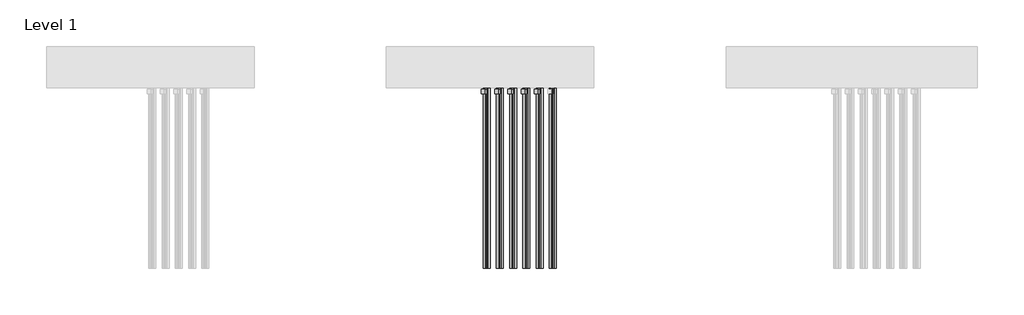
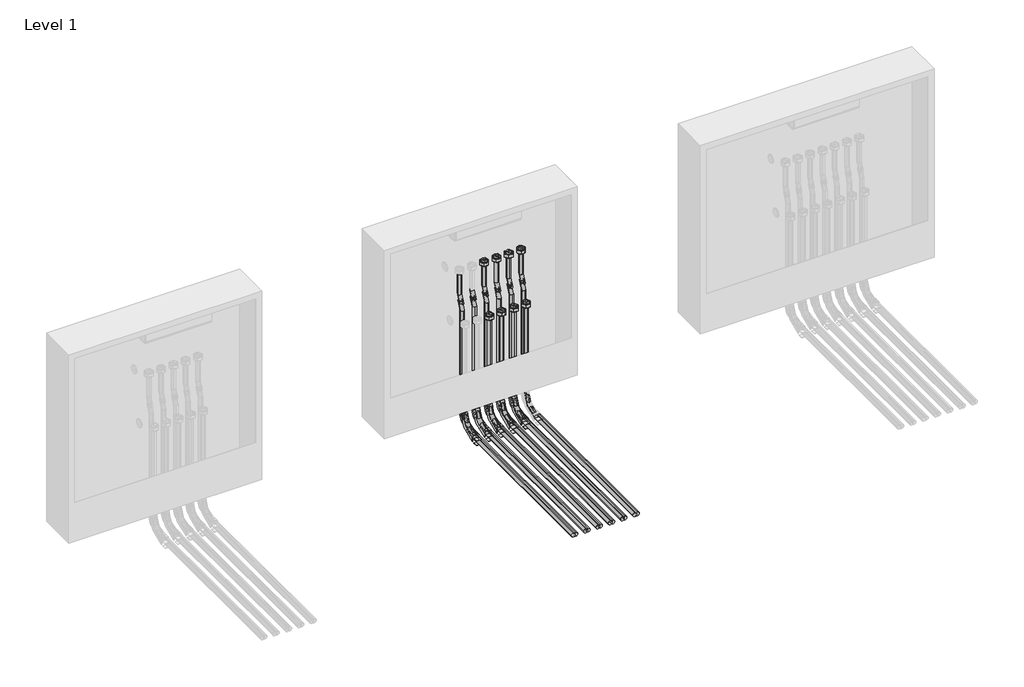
# One storey, part 4 of 15: 41 pipe fittings, 33 pipe segments.
"""IFC4 building model written with IfcOpenShell, lengths in millimetres."""

from ifc_helpers import new_model, si_unit, point, frame, frame_2d, origin, place, context, project, spatial, circle_curve, trimmed, segment, composite_curve, outline, extrude, transform, mapped, element, save
from components import pipe_fitting_b05a7e06, pipe_fitting_27357a6d, pipe_fitting_daada113, pipe_fitting_3e503640

model = new_model("IFC4")

# Units and contexts
model_context = context("Model", 3, world=origin())
ifc_project = project(units=[si_unit("LENGTHUNIT", "METRE", prefix="MILLI")], contexts=[model_context])

# Site, building, storey
site = spatial("IfcSite", under=ifc_project)
building = spatial("IfcBuilding", under=site)
storey = spatial("IfcBuildingStorey", under=building, Name="Level 1", Elevation=0.0)

# Pipe fittings
placement = place(None, origin())
pipe_fitting_shape = pipe_fitting_b05a7e06(model_context)
element("IfcPipeFitting", 1, ObjectType="USYSTEMS_УгловойФиксатор_Multi : Угловой фиксатор", at=placement, inside=storey, context=model_context, shape_type="MappedRepresentation", body=[
    mapped(pipe_fitting_shape, transform((7342.2335352, 3819.7722258, -114.3211479), x_axis=(0.0, 0.0, -1.0), y_axis=(0.0, -1.0, 0.0), z_axis=(-1.0, 0.0, 0.0))),
])
element("IfcPipeFitting", 2, ObjectType="USYSTEMS_УгловойФиксатор_Multi : Угловой фиксатор", at=placement, inside=storey, context=model_context, shape_type="MappedRepresentation", body=[
    mapped(pipe_fitting_shape, transform((7392.2335352, 3819.7722258, -114.3211479), x_axis=(0.0, 0.0, -1.0), y_axis=(0.0, -1.0, 0.0), z_axis=(-1.0, 0.0, 0.0))),
])
element("IfcPipeFitting", 3, ObjectType="USYSTEMS_УгловойФиксатор_Multi : Угловой фиксатор", at=placement, inside=storey, context=model_context, shape_type="MappedRepresentation", body=[
    mapped(pipe_fitting_shape, transform((7352.3192916, 3855.7722258, -114.3211479), x_axis=(0.0, 0.0, -1.0), y_axis=(0.0, -1.0, 0.0), z_axis=(-1.0, 0.0, 0.0))),
])
element("IfcPipeFitting", 4, ObjectType="USYSTEMS_УгловойФиксатор_Multi : Угловой фиксатор", at=placement, inside=storey, context=model_context, shape_type="MappedRepresentation", body=[
    mapped(pipe_fitting_shape, transform((7402.3192916, 3855.7722258, -114.3211479), x_axis=(0.0, 0.0, -1.0), y_axis=(0.0, -1.0, 0.0), z_axis=(-1.0, 0.0, 0.0))),
])
element("IfcPipeFitting", 5, ObjectType="USYSTEMS_УгловойФиксатор_Multi : Угловой фиксатор", at=placement, inside=storey, context=model_context, shape_type="MappedRepresentation", body=[
    mapped(pipe_fitting_shape, transform((7442.2335352, 3819.7725242, -114.3211479), x_axis=(0.0, 0.0, -1.0), y_axis=(0.0, -1.0, 0.0), z_axis=(-1.0, 0.0, 0.0))),
])
element("IfcPipeFitting", 6, ObjectType="USYSTEMS_УгловойФиксатор_Multi : Угловой фиксатор", at=placement, inside=storey, context=model_context, shape_type="MappedRepresentation", body=[
    mapped(pipe_fitting_shape, transform((7452.3192916, 3855.7725479, -114.3211479), x_axis=(0.0, 0.0, -1.0), y_axis=(0.0, -1.0, 0.0), z_axis=(-1.0, 0.0, 0.0))),
])
element("IfcPipeFitting", 7, ObjectType="USYSTEMS_УгловойФиксатор_Multi : Угловой фиксатор", at=placement, inside=storey, context=model_context, shape_type="MappedRepresentation", body=[
    mapped(pipe_fitting_shape, transform((7492.2335352, 3819.7725479, -114.3211479), x_axis=(0.0, 0.0, -1.0), y_axis=(0.0, -1.0, 0.0), z_axis=(-1.0, 0.0, 0.0))),
])
element("IfcPipeFitting", 8, ObjectType="USYSTEMS_УгловойФиксатор_Multi : Угловой фиксатор", at=placement, inside=storey, context=model_context, shape_type="MappedRepresentation", body=[
    mapped(pipe_fitting_shape, transform((7502.3192916, 3855.7722258, -114.3211479), x_axis=(0.0, 0.0, -1.0), y_axis=(0.0, -1.0, 0.0), z_axis=(-1.0, 0.0, 0.0))),
])
element("IfcPipeFitting", 9, ObjectType="USYSTEMS_УгловойФиксатор_Multi : Угловой фиксатор", at=placement, inside=storey, context=model_context, shape_type="MappedRepresentation", body=[
    mapped(pipe_fitting_shape, transform((7542.2335352, 3819.7722258, -114.3211479), x_axis=(0.0, 0.0, -1.0), y_axis=(0.0, -1.0, 0.0), z_axis=(-1.0, 0.0, 0.0))),
])
element("IfcPipeFitting", 10, ObjectType="USYSTEMS_УгловойФиксатор_Multi : Угловой фиксатор", at=placement, inside=storey, context=model_context, shape_type="MappedRepresentation", body=[
    mapped(pipe_fitting_shape, transform((7552.3192916, 3855.7725479, -114.3211479), x_axis=(0.0, 0.0, -1.0), y_axis=(0.0, -1.0, 0.0), z_axis=(-1.0, 0.0, 0.0))),
])
pipe_fitting_2_shape = pipe_fitting_27357a6d(model_context)
element("IfcPipeFitting", 11, ObjectType="USYSTEMS_Штуцер с внутренней резьбой_FlexX_PEX : 16x2,0 x 3/4\" ВР Евроконус", at=placement, inside=storey, context=model_context, shape_type="MappedRepresentation", body=[
    mapped(pipe_fitting_2_shape, transform((7442.2335352, 3819.7726859, 328.3084133), x_axis=(0.0, 0.0, 1.0), y_axis=(0.0, 1.0, 0.0), z_axis=(-1.0, 0.0, 0.0))),
])
element("IfcPipeFitting", 12, ObjectType="USYSTEMS_Штуцер с внутренней резьбой_FlexX_PEX : 16x2,0 x 3/4\" ВР Евроконус", at=placement, inside=storey, context=model_context, shape_type="MappedRepresentation", body=[
    mapped(pipe_fitting_2_shape, transform((7442.2335352, 3855.7726859, 538.3084133), x_axis=(0.0, 0.0, 1.0), y_axis=(0.0, 1.0, 0.0), z_axis=(-1.0, 0.0, 0.0))),
])
element("IfcPipeFitting", 13, ObjectType="USYSTEMS_Штуцер с внутренней резьбой_FlexX_PEX : 16x2,0 x 3/4\" ВР Евроконус", at=placement, inside=storey, context=model_context, shape_type="MappedRepresentation", body=[
    mapped(pipe_fitting_2_shape, transform((7492.2335352, 3819.7726859, 328.3084133), x_axis=(0.0, 0.0, 1.0), y_axis=(0.0, 1.0, 0.0), z_axis=(-1.0, 0.0, 0.0))),
])
element("IfcPipeFitting", 14, ObjectType="USYSTEMS_Штуцер с внутренней резьбой_FlexX_PEX : 16x2,0 x 3/4\" ВР Евроконус", at=placement, inside=storey, context=model_context, shape_type="MappedRepresentation", body=[
    mapped(pipe_fitting_2_shape, transform((7492.2335352, 3855.7726859, 538.3084133), x_axis=(0.0, 0.0, 1.0), y_axis=(0.0, 1.0, 0.0), z_axis=(-1.0, 0.0, 0.0))),
])
element("IfcPipeFitting", 15, ObjectType="USYSTEMS_Штуцер с внутренней резьбой_FlexX_PEX : 16x2,0 x 3/4\" ВР Евроконус", at=placement, inside=storey, context=model_context, shape_type="MappedRepresentation", body=[
    mapped(pipe_fitting_2_shape, transform((7542.2335352, 3819.7726859, 328.3084133), x_axis=(0.0, 0.0, 1.0), y_axis=(0.0, 1.0, 0.0), z_axis=(-1.0, 0.0, 0.0))),
])
element("IfcPipeFitting", 16, ObjectType="USYSTEMS_Штуцер с внутренней резьбой_FlexX_PEX : 16x2,0 x 3/4\" ВР Евроконус", at=placement, inside=storey, context=model_context, shape_type="MappedRepresentation", body=[
    mapped(pipe_fitting_2_shape, transform((7542.2335352, 3855.7726859, 538.3084133), x_axis=(0.0, 0.0, 1.0), y_axis=(0.0, 1.0, 0.0), z_axis=(-1.0, 0.0, 0.0))),
])
element("IfcPipeFitting", 17, ObjectType="USYSTEMS_Штуцер с внутренней резьбой_FlexX_PEX : 16x2,0 x 3/4\" ВР Евроконус", at=placement, inside=storey, context=model_context, shape_type="MappedRepresentation", body=[
    mapped(pipe_fitting_2_shape, transform((7592.2335352, 3819.7726859, 328.3084133), x_axis=(0.0, 0.0, 1.0), y_axis=(0.0, 1.0, 0.0), z_axis=(-1.0, 0.0, 0.0))),
])
element("IfcPipeFitting", 18, ObjectType="USYSTEMS_Штуцер с внутренней резьбой_FlexX_PEX : 16x2,0 x 3/4\" ВР Евроконус", at=placement, inside=storey, context=model_context, shape_type="MappedRepresentation", body=[
    mapped(pipe_fitting_2_shape, transform((7592.2335352, 3855.7726859, 538.3084133), x_axis=(0.0, 0.0, 1.0), y_axis=(0.0, 1.0, 0.0), z_axis=(-1.0, 0.0, 0.0))),
])
pipe_fitting_3_shape = pipe_fitting_daada113(model_context)
element("IfcPipeFitting", 19, ObjectType="USYSTEMS_Гнутая труба_Radi Pipe : PN 6 в бухтах", at=placement, inside=storey, context=model_context, shape_type="MappedRepresentation", body=[
    mapped(pipe_fitting_3_shape, transform((7342.2335352, 3855.771926, 414.5388211), x_axis=(0.0, 0.0, -1.0), y_axis=(1.0, 0.0, 0.0), z_axis=(0.0, -1.0, 0.0))),
])
element("IfcPipeFitting", 20, ObjectType="USYSTEMS_Гнутая труба_Radi Pipe : PN 6 в бухтах", at=placement, inside=storey, context=model_context, shape_type="MappedRepresentation", body=[
    mapped(pipe_fitting_3_shape, transform((7352.3192916, 3855.7722258, 388.2645272), x_axis=(0.3583679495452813, 0.0, -0.9335804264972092), y_axis=(-0.9335804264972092, 0.0, -0.3583679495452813), z_axis=(0.0, 1.0, 0.0))),
])
element("IfcPipeFitting", 21, ObjectType="USYSTEMS_Гнутая труба_Radi Pipe : PN 6 в бухтах", at=placement, inside=storey, context=model_context, shape_type="MappedRepresentation", body=[
    mapped(pipe_fitting_3_shape, transform((7392.2335352, 3855.7719261, 414.5122189), x_axis=(0.0, 0.0, -1.0), y_axis=(1.0, 0.0, 0.0), z_axis=(0.0, -1.0, 0.0))),
])
element("IfcPipeFitting", 22, ObjectType="USYSTEMS_Гнутая труба_Radi Pipe : PN 6 в бухтах", at=placement, inside=storey, context=model_context, shape_type="MappedRepresentation", body=[
    mapped(pipe_fitting_3_shape, transform((7402.3192916, 3855.7722258, 388.237925), x_axis=(0.3583679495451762, 0.0, -0.9335804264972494), y_axis=(-0.9335804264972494, 0.0, -0.3583679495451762), z_axis=(0.0, 1.0, 0.0))),
])
element("IfcPipeFitting", 23, ObjectType="USYSTEMS_Гнутая труба_Radi Pipe : PN 6 в бухтах", at=placement, inside=storey, context=model_context, shape_type="MappedRepresentation", body=[
    mapped(pipe_fitting_3_shape, transform((7442.2335352, 3855.7724579, 414.5388211), x_axis=(0.0, 0.0, -1.0), y_axis=(1.0, 0.0, 0.0), z_axis=(0.0, -1.0, 0.0))),
])
element("IfcPipeFitting", 24, ObjectType="USYSTEMS_Гнутая труба_Radi Pipe : PN 6 в бухтах", at=placement, inside=storey, context=model_context, shape_type="MappedRepresentation", body=[
    mapped(pipe_fitting_3_shape, transform((7452.3192916, 3855.7725479, 388.2645272), x_axis=(0.3583679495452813, 0.0, -0.9335804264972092), y_axis=(-0.9335804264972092, 0.0, -0.3583679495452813), z_axis=(0.0, 1.0, 0.0))),
])
element("IfcPipeFitting", 25, ObjectType="USYSTEMS_Гнутая труба_Radi Pipe : PN 6 в бухтах", at=placement, inside=storey, context=model_context, shape_type="MappedRepresentation", body=[
    mapped(pipe_fitting_3_shape, transform((7492.2335352, 3855.771926, 414.5388211), x_axis=(0.0, 0.0, -1.0), y_axis=(1.0, 0.0, 0.0), z_axis=(0.0, -1.0, 0.0))),
])
element("IfcPipeFitting", 26, ObjectType="USYSTEMS_Гнутая труба_Radi Pipe : PN 6 в бухтах", at=placement, inside=storey, context=model_context, shape_type="MappedRepresentation", body=[
    mapped(pipe_fitting_3_shape, transform((7502.3192916, 3855.7722258, 388.2645272), x_axis=(0.3583679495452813, 0.0, -0.9335804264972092), y_axis=(-0.9335804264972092, 0.0, -0.3583679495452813), z_axis=(0.0, 1.0, 0.0))),
])
element("IfcPipeFitting", 27, ObjectType="USYSTEMS_Гнутая труба_Radi Pipe : PN 6 в бухтах", at=placement, inside=storey, context=model_context, shape_type="MappedRepresentation", body=[
    mapped(pipe_fitting_3_shape, transform((7542.2335352, 3855.7724579, 414.5388211), x_axis=(0.0, 0.0, -1.0), y_axis=(1.0, 0.0, 0.0), z_axis=(0.0, -1.0, 0.0))),
])
element("IfcPipeFitting", 28, ObjectType="USYSTEMS_Гнутая труба_Radi Pipe : PN 6 в бухтах", at=placement, inside=storey, context=model_context, shape_type="MappedRepresentation", body=[
    mapped(pipe_fitting_3_shape, transform((7552.3192916, 3855.7725479, 388.2645272), x_axis=(0.3583679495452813, 0.0, -0.9335804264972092), y_axis=(-0.9335804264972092, 0.0, -0.3583679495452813), z_axis=(0.0, 1.0, 0.0))),
])
element("IfcPipeFitting", 29, ObjectType="USYSTEMS_Гнутая труба_Radi Pipe : PN 6 в бухтах", at=placement, inside=storey, context=model_context, shape_type="MappedRepresentation", body=[
    mapped(pipe_fitting_3_shape, transform((7592.2335352, 3855.7724579, 414.5388211), x_axis=(0.0, 0.0, -1.0), y_axis=(1.0, 0.0, 0.0), z_axis=(0.0, -1.0, 0.0))),
])
element("IfcPipeFitting", 30, ObjectType="USYSTEMS_Гнутая труба_Radi Pipe : PN 6 в бухтах", at=placement, inside=storey, context=model_context, shape_type="MappedRepresentation", body=[
    mapped(pipe_fitting_3_shape, transform((7602.3192916, 3855.7725479, 388.2645272), x_axis=(0.3583679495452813, 0.0, -0.9335804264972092), y_axis=(-0.9335804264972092, 0.0, -0.3583679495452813), z_axis=(0.0, 1.0, 0.0))),
])
pipe_fitting_4_shape = pipe_fitting_3e503640(model_context)
element("IfcPipeFitting", 31, ObjectType="USYSTEMS_Гнутая труба_Radi Pipe : PN 6 в бухтах_С фиксатором", at=placement, inside=storey, context=model_context, shape_type="MappedRepresentation", body=[
    mapped(pipe_fitting_4_shape, transform((7342.2335352, 3819.7722258, -114.3211479), x_axis=(0.0, 0.0, -1.0), y_axis=(0.0, -1.0, 0.0), z_axis=(-1.0, 0.0, 0.0))),
])
element("IfcPipeFitting", 32, ObjectType="USYSTEMS_Гнутая труба_Radi Pipe : PN 6 в бухтах_С фиксатором", at=placement, inside=storey, context=model_context, shape_type="MappedRepresentation", body=[
    mapped(pipe_fitting_4_shape, transform((7392.2335352, 3819.7722258, -114.3211479), x_axis=(0.0, 0.0, -1.0), y_axis=(0.0, -1.0, 0.0), z_axis=(-1.0, 0.0, 0.0))),
])
element("IfcPipeFitting", 33, ObjectType="USYSTEMS_Гнутая труба_Radi Pipe : PN 6 в бухтах_С фиксатором", at=placement, inside=storey, context=model_context, shape_type="MappedRepresentation", body=[
    mapped(pipe_fitting_4_shape, transform((7352.3192916, 3855.7722258, -114.3211479), x_axis=(0.0, 0.0, -1.0), y_axis=(0.0, -1.0, 0.0), z_axis=(-1.0, 0.0, 0.0))),
])
element("IfcPipeFitting", 34, ObjectType="USYSTEMS_Гнутая труба_Radi Pipe : PN 6 в бухтах_С фиксатором", at=placement, inside=storey, context=model_context, shape_type="MappedRepresentation", body=[
    mapped(pipe_fitting_4_shape, transform((7402.3192916, 3855.7722258, -114.3211479), x_axis=(0.0, 0.0, -1.0), y_axis=(0.0, -1.0, 0.0), z_axis=(-1.0, 0.0, 0.0))),
])
element("IfcPipeFitting", 35, ObjectType="USYSTEMS_Гнутая труба_Radi Pipe : PN 6 в бухтах_С фиксатором", at=placement, inside=storey, context=model_context, shape_type="MappedRepresentation", body=[
    mapped(pipe_fitting_4_shape, transform((7442.2335352, 3819.7725242, -114.3211479), x_axis=(0.0, 0.0, -1.0), y_axis=(0.0, -1.0, 0.0), z_axis=(-1.0, 0.0, 0.0))),
])
element("IfcPipeFitting", 36, ObjectType="USYSTEMS_Гнутая труба_Radi Pipe : PN 6 в бухтах_С фиксатором", at=placement, inside=storey, context=model_context, shape_type="MappedRepresentation", body=[
    mapped(pipe_fitting_4_shape, transform((7452.3192916, 3855.7725479, -114.3211479), x_axis=(0.0, 0.0, -1.0), y_axis=(0.0, -1.0, 0.0), z_axis=(-1.0, 0.0, 0.0))),
])
element("IfcPipeFitting", 37, ObjectType="USYSTEMS_Гнутая труба_Radi Pipe : PN 6 в бухтах_С фиксатором", at=placement, inside=storey, context=model_context, shape_type="MappedRepresentation", body=[
    mapped(pipe_fitting_4_shape, transform((7492.2335352, 3819.7725479, -114.3211479), x_axis=(0.0, 0.0, -1.0), y_axis=(0.0, -1.0, 0.0), z_axis=(-1.0, 0.0, 0.0))),
])
element("IfcPipeFitting", 38, ObjectType="USYSTEMS_Гнутая труба_Radi Pipe : PN 6 в бухтах_С фиксатором", at=placement, inside=storey, context=model_context, shape_type="MappedRepresentation", body=[
    mapped(pipe_fitting_4_shape, transform((7502.3192916, 3855.7722258, -114.3211479), x_axis=(0.0, 0.0, -1.0), y_axis=(0.0, -1.0, 0.0), z_axis=(-1.0, 0.0, 0.0))),
])
element("IfcPipeFitting", 39, ObjectType="USYSTEMS_Гнутая труба_Radi Pipe : PN 6 в бухтах_С фиксатором", at=placement, inside=storey, context=model_context, shape_type="MappedRepresentation", body=[
    mapped(pipe_fitting_4_shape, transform((7542.2335352, 3819.7722258, -114.3211479), x_axis=(0.0, 0.0, -1.0), y_axis=(0.0, -1.0, 0.0), z_axis=(-1.0, 0.0, 0.0))),
])
element("IfcPipeFitting", 40, ObjectType="USYSTEMS_Гнутая труба_Radi Pipe : PN 6 в бухтах_С фиксатором", at=placement, inside=storey, context=model_context, shape_type="MappedRepresentation", body=[
    mapped(pipe_fitting_4_shape, transform((7552.3192916, 3855.7725479, -114.3211479), x_axis=(0.0, 0.0, -1.0), y_axis=(0.0, -1.0, 0.0), z_axis=(-1.0, 0.0, 0.0))),
])
element("IfcPipeFitting", 41, ObjectType="USYSTEMS_Гнутая труба_Radi Pipe : PN 6 в бухтах_С фиксатором", at=placement, inside=storey, context=model_context, shape_type="MappedRepresentation", body=[
    mapped(pipe_fitting_4_shape, transform((7592.2335352, 3819.7722258, -114.3211479), x_axis=(0.0, 0.0, -1.0), y_axis=(0.0, -1.0, 0.0), z_axis=(-1.0, 0.0, 0.0))),
])

# Pipe segments
element("IfcPipeSegment", 42, ObjectType="USYSTEMS труба Radi Pipe белая PN6", at=placement, inside=storey, context=model_context, shape_type="SweptSolid", body=[
    extrude(outline(composite_curve([segment(trimmed(circle_curve(frame_2d((0.0, -8.0)), 8.0), [point((-8.0, -8.0))], [point((0.0, 0.0))], False, "CARTESIAN"), True, "CONTINUOUS"), segment(trimmed(circle_curve(frame_2d((0.0, -8.0)), 8.0), [point((0.0, 0.0))], [point((8.0, -8.0))], False, "CARTESIAN"), True, "CONTINUOUS"), segment(trimmed(circle_curve(frame_2d((0.0, -8.0)), 8.0), [point((8.0, -8.0))], [point((0.0, -16.0))], False, "CARTESIAN"), True, "CONTINUOUS"), segment(trimmed(circle_curve(frame_2d((0.0, -8.0)), 8.0), [point((0.0, -16.0))], [point((-8.0, -8.0))], False, "CARTESIAN"), True, "CONTINUOUS")], self_intersect=False)), frame((7342.2335352, 3847.771926, 438.2622802), z_axis=(0.0, 7.672802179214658e-06, 0.9999999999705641), x_axis=(-1.0, 0.0, 0.0)), (0.0, 0.0, 1.0), 99.0461944),
])
element("IfcPipeSegment", 43, ObjectType="USYSTEMS труба Radi Pipe белая PN6", at=placement, inside=storey, context=model_context, shape_type="SweptSolid", body=[
    extrude(outline(composite_curve([segment(trimmed(circle_curve(frame_2d((0.0, 8.0)), 8.0), [point((0.0003714, 16.0))], [point((8.0, 7.9996286))], False, "CARTESIAN"), True, "CONTINUOUS"), segment(trimmed(circle_curve(frame_2d((0.0, 8.0)), 8.0), [point((8.0, 7.9996286))], [point((-0.0003715, 0.0))], False, "CARTESIAN"), True, "CONTINUOUS"), segment(trimmed(circle_curve(frame_2d((0.0, 8.0)), 8.0), [point((-0.0003715, 0.0))], [point((-8.0, 8.0003714))], False, "CARTESIAN"), True, "CONTINUOUS"), segment(trimmed(circle_curve(frame_2d((0.0, 8.0)), 8.0), [point((-8.0, 8.0003714))], [point((0.0003714, 16.0))], False, "CARTESIAN"), True, "CONTINUOUS")], self_intersect=False)), frame((7350.7352406, 3847.771926, 392.3912544), z_axis=(-0.35836794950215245, 1.5532384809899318e-05, 0.9335804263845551), x_axis=(0.9335804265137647, 5.9623239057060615e-06, 0.3583679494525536)), (0.0, 0.0, 1.0), 19.3032171),
])
element("IfcPipeSegment", 44, ObjectType="USYSTEMS труба Radi Pipe белая PN6", at=placement, inside=storey, context=model_context, shape_type="SweptSolid", body=[
    extrude(outline(composite_curve([segment(trimmed(circle_curve(frame_2d((7352.3192916, 3855.7722258)), 8.0), [point((7360.3192916, 3855.7722258))], [point((7352.3192916, 3847.7722258))], False, "CARTESIAN"), True, "CONTINUOUS"), segment(trimmed(circle_curve(frame_2d((7352.3192916, 3855.7722258)), 8.0), [point((7352.3192916, 3847.7722258))], [point((7344.3192916, 3855.7722258))], False, "CARTESIAN"), True, "CONTINUOUS"), segment(trimmed(circle_curve(frame_2d((7352.3192916, 3855.7722258)), 8.0), [point((7344.3192916, 3855.7722258))], [point((7352.3192916, 3863.7722258))], False, "CARTESIAN"), True, "CONTINUOUS"), segment(trimmed(circle_curve(frame_2d((7352.3192916, 3855.7722258)), 8.0), [point((7352.3192916, 3863.7722258))], [point((7360.3192916, 3855.7722258))], False, "CARTESIAN"), True, "CONTINUOUS")], self_intersect=False)), frame((0.0, 0.0, -43.3211479), z_axis=(0.0, 0.0, 1.0), x_axis=(1.0, 0.0, 0.0)), (0.0, 0.0, 1.0), 407.8622774),
])
element("IfcPipeSegment", 45, ObjectType="USYSTEMS труба Radi Pipe белая PN6", at=placement, inside=storey, context=model_context, shape_type="SweptSolid", body=[
    extrude(outline(composite_curve([segment(trimmed(circle_curve(frame_2d((0.0, 8.0)), 8.0), [point((0.0003713, 16.0))], [point((8.0, 7.9996287))], False, "CARTESIAN"), True, "CONTINUOUS"), segment(trimmed(circle_curve(frame_2d((0.0, 8.0)), 8.0), [point((8.0, 7.9996287))], [point((-0.0003712, 0.0))], False, "CARTESIAN"), True, "CONTINUOUS"), segment(trimmed(circle_curve(frame_2d((0.0, 8.0)), 8.0), [point((-0.0003712, 0.0))], [point((-8.0, 8.0003713))], False, "CARTESIAN"), True, "CONTINUOUS"), segment(trimmed(circle_curve(frame_2d((0.0, 8.0)), 8.0), [point((-8.0, 8.0003713))], [point((0.0003713, 16.0))], False, "CARTESIAN"), True, "CONTINUOUS")], self_intersect=False)), frame((7400.7352406, 3847.7719261, 392.3646521), z_axis=(-0.35836794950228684, 1.5525497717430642e-05, 0.9335804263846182), x_axis=(0.9335804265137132, 5.959680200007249e-06, 0.3583679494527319)), (0.0, 0.0, 1.0), 19.3032171),
])
element("IfcPipeSegment", 46, ObjectType="USYSTEMS труба Radi Pipe белая PN6", at=placement, inside=storey, context=model_context, shape_type="SweptSolid", body=[
    extrude(outline(composite_curve([segment(trimmed(circle_curve(frame_2d((7402.3192916, 3855.7722258)), 8.0), [point((7410.3192916, 3855.7722258))], [point((7402.3192916, 3847.7722258))], False, "CARTESIAN"), True, "CONTINUOUS"), segment(trimmed(circle_curve(frame_2d((7402.3192916, 3855.7722258)), 8.0), [point((7402.3192916, 3847.7722258))], [point((7394.3192916, 3855.7722258))], False, "CARTESIAN"), True, "CONTINUOUS"), segment(trimmed(circle_curve(frame_2d((7402.3192916, 3855.7722258)), 8.0), [point((7394.3192916, 3855.7722258))], [point((7402.3192916, 3863.7722258))], False, "CARTESIAN"), True, "CONTINUOUS"), segment(trimmed(circle_curve(frame_2d((7402.3192916, 3855.7722258)), 8.0), [point((7402.3192916, 3863.7722258))], [point((7410.3192916, 3855.7722258))], False, "CARTESIAN"), True, "CONTINUOUS")], self_intersect=False)), frame((0.0, 0.0, -43.3211479), z_axis=(0.0, 0.0, 1.0), x_axis=(1.0, 0.0, 0.0)), (0.0, 0.0, 1.0), 407.8356751),
])
element("IfcPipeSegment", 47, ObjectType="USYSTEMS труба Radi Pipe белая PN6", at=placement, inside=storey, context=model_context, shape_type="SweptSolid", body=[
    extrude(outline(composite_curve([segment(trimmed(circle_curve(frame_2d((-114.3211479, 7342.2335352)), 8.0), [point((-114.3211479, 7334.2335352))], [point((-122.3211479, 7342.2335352))], False, "CARTESIAN"), True, "CONTINUOUS"), segment(trimmed(circle_curve(frame_2d((-114.3211479, 7342.2335352)), 8.0), [point((-122.3211479, 7342.2335352))], [point((-114.3211479, 7350.2335352))], False, "CARTESIAN"), True, "CONTINUOUS"), segment(trimmed(circle_curve(frame_2d((-114.3211479, 7342.2335352)), 8.0), [point((-114.3211479, 7350.2335352))], [point((-106.3211479, 7342.2335352))], False, "CARTESIAN"), True, "CONTINUOUS"), segment(trimmed(circle_curve(frame_2d((-114.3211479, 7342.2335352)), 8.0), [point((-106.3211479, 7342.2335352))], [point((-114.3211479, 7334.2335352))], False, "CARTESIAN"), True, "CONTINUOUS")], self_intersect=False)), frame((0.0, 3054.7207207, 0.0), z_axis=(0.0, 1.0, 0.0), x_axis=(0.0, 0.0, 1.0)), (0.0, 0.0, 1.0), 694.0515051),
])
element("IfcPipeSegment", 48, ObjectType="USYSTEMS труба Radi Pipe белая PN6", at=placement, inside=storey, context=model_context, shape_type="SweptSolid", body=[
    extrude(outline(composite_curve([segment(trimmed(circle_curve(frame_2d((-114.3211479, 7392.2335352)), 8.0), [point((-114.3211479, 7384.2335352))], [point((-122.3211479, 7392.2335352))], False, "CARTESIAN"), True, "CONTINUOUS"), segment(trimmed(circle_curve(frame_2d((-114.3211479, 7392.2335352)), 8.0), [point((-122.3211479, 7392.2335352))], [point((-114.3211479, 7400.2335352))], False, "CARTESIAN"), True, "CONTINUOUS"), segment(trimmed(circle_curve(frame_2d((-114.3211479, 7392.2335352)), 8.0), [point((-114.3211479, 7400.2335352))], [point((-106.3211479, 7392.2335352))], False, "CARTESIAN"), True, "CONTINUOUS"), segment(trimmed(circle_curve(frame_2d((-114.3211479, 7392.2335352)), 8.0), [point((-106.3211479, 7392.2335352))], [point((-114.3211479, 7384.2335352))], False, "CARTESIAN"), True, "CONTINUOUS")], self_intersect=False)), frame((0.0, 3054.7207207, 0.0), z_axis=(0.0, 1.0, 0.0), x_axis=(0.0, 0.0, 1.0)), (0.0, 0.0, 1.0), 694.0515051),
])
element("IfcPipeSegment", 49, ObjectType="USYSTEMS труба Radi Pipe белая PN6", at=placement, inside=storey, context=model_context, shape_type="SweptSolid", body=[
    extrude(outline(composite_curve([segment(trimmed(circle_curve(frame_2d((-114.3211479, 7352.3192916)), 8.0), [point((-114.3211479, 7344.3192916))], [point((-122.3211479, 7352.3192916))], False, "CARTESIAN"), True, "CONTINUOUS"), segment(trimmed(circle_curve(frame_2d((-114.3211479, 7352.3192916)), 8.0), [point((-122.3211479, 7352.3192916))], [point((-114.3211479, 7360.3192916))], False, "CARTESIAN"), True, "CONTINUOUS"), segment(trimmed(circle_curve(frame_2d((-114.3211479, 7352.3192916)), 8.0), [point((-114.3211479, 7360.3192916))], [point((-106.3211479, 7352.3192916))], False, "CARTESIAN"), True, "CONTINUOUS"), segment(trimmed(circle_curve(frame_2d((-114.3211479, 7352.3192916)), 8.0), [point((-106.3211479, 7352.3192916))], [point((-114.3211479, 7344.3192916))], False, "CARTESIAN"), True, "CONTINUOUS")], self_intersect=False)), frame((0.0, 3054.7207207, 0.0), z_axis=(0.0, 1.0, 0.0), x_axis=(0.0, 0.0, 1.0)), (0.0, 0.0, 1.0), 730.0515051),
])
element("IfcPipeSegment", 50, ObjectType="USYSTEMS труба Radi Pipe белая PN6", at=placement, inside=storey, context=model_context, shape_type="SweptSolid", body=[
    extrude(outline(composite_curve([segment(trimmed(circle_curve(frame_2d((-114.3211479, 7402.3192916)), 8.0), [point((-114.3211479, 7394.3192916))], [point((-122.3211479, 7402.3192916))], False, "CARTESIAN"), True, "CONTINUOUS"), segment(trimmed(circle_curve(frame_2d((-114.3211479, 7402.3192916)), 8.0), [point((-122.3211479, 7402.3192916))], [point((-114.3211479, 7410.3192916))], False, "CARTESIAN"), True, "CONTINUOUS"), segment(trimmed(circle_curve(frame_2d((-114.3211479, 7402.3192916)), 8.0), [point((-114.3211479, 7410.3192916))], [point((-106.3211479, 7402.3192916))], False, "CARTESIAN"), True, "CONTINUOUS"), segment(trimmed(circle_curve(frame_2d((-114.3211479, 7402.3192916)), 8.0), [point((-106.3211479, 7402.3192916))], [point((-114.3211479, 7394.3192916))], False, "CARTESIAN"), True, "CONTINUOUS")], self_intersect=False)), frame((0.0, 3054.7207207, 0.0), z_axis=(0.0, 1.0, 0.0), x_axis=(0.0, 0.0, 1.0)), (0.0, 0.0, 1.0), 730.0515051),
])
element("IfcPipeSegment", 51, ObjectType="USYSTEMS труба Radi Pipe белая PN6", at=placement, inside=storey, context=model_context, shape_type="SweptSolid", body=[
    extrude(outline(composite_curve([segment(trimmed(circle_curve(frame_2d((0.0, -8.0)), 8.0), [point((-8.0, -8.0))], [point((0.0, 0.0))], False, "CARTESIAN"), True, "CONTINUOUS"), segment(trimmed(circle_curve(frame_2d((0.0, -8.0)), 8.0), [point((0.0, 0.0))], [point((8.0, -8.0))], False, "CARTESIAN"), True, "CONTINUOUS"), segment(trimmed(circle_curve(frame_2d((0.0, -8.0)), 8.0), [point((8.0, -8.0))], [point((0.0, -16.0))], False, "CARTESIAN"), True, "CONTINUOUS"), segment(trimmed(circle_curve(frame_2d((0.0, -8.0)), 8.0), [point((0.0, -16.0))], [point((-8.0, -8.0))], False, "CARTESIAN"), True, "CONTINUOUS")], self_intersect=False)), frame((7442.2335352, 3811.7725242, -43.3211444), z_axis=(0.0, 4.364344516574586e-07, 0.9999999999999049), x_axis=(-1.0, 0.0, 0.0)), (0.0, 0.0, 1.0), 370.6295612),
])
element("IfcPipeSegment", 52, ObjectType="USYSTEMS труба Radi Pipe белая PN6", at=placement, inside=storey, context=model_context, shape_type="SweptSolid", body=[
    extrude(outline(composite_curve([segment(trimmed(circle_curve(frame_2d((0.0, -8.0)), 8.0), [point((-8.0, -8.0))], [point((0.0, 0.0))], False, "CARTESIAN"), True, "CONTINUOUS"), segment(trimmed(circle_curve(frame_2d((0.0, -8.0)), 8.0), [point((0.0, 0.0))], [point((8.0, -8.0))], False, "CARTESIAN"), True, "CONTINUOUS"), segment(trimmed(circle_curve(frame_2d((0.0, -8.0)), 8.0), [point((8.0, -8.0))], [point((0.0, -16.0))], False, "CARTESIAN"), True, "CONTINUOUS"), segment(trimmed(circle_curve(frame_2d((0.0, -8.0)), 8.0), [point((0.0, -16.0))], [point((-8.0, -8.0))], False, "CARTESIAN"), True, "CONTINUOUS")], self_intersect=False)), frame((7442.2335352, 3847.7724579, 438.2622373), z_axis=(0.0, 2.3018406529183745e-06, 0.9999999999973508), x_axis=(-1.0, 0.0, 0.0)), (0.0, 0.0, 1.0), 99.0461944),
])
element("IfcPipeSegment", 53, ObjectType="USYSTEMS труба Radi Pipe белая PN6", at=placement, inside=storey, context=model_context, shape_type="SweptSolid", body=[
    extrude(outline(composite_curve([segment(trimmed(circle_curve(frame_2d((0.0, 8.0)), 8.0), [point((0.0001114, 16.0))], [point((8.0, 7.9998886))], False, "CARTESIAN"), True, "CONTINUOUS"), segment(trimmed(circle_curve(frame_2d((0.0, 8.0)), 8.0), [point((8.0, 7.9998886))], [point((-0.0001114, 0.0))], False, "CARTESIAN"), True, "CONTINUOUS"), segment(trimmed(circle_curve(frame_2d((0.0, 8.0)), 8.0), [point((-0.0001114, 0.0))], [point((-8.0, 8.0001115))], False, "CARTESIAN"), True, "CONTINUOUS"), segment(trimmed(circle_curve(frame_2d((0.0, 8.0)), 8.0), [point((-8.0, 8.0001115))], [point((0.0001114, 16.0))], False, "CARTESIAN"), True, "CONTINUOUS")], self_intersect=False)), frame((7450.7352406, 3847.7724579, 392.3911613), z_axis=(-0.35836794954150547, 4.659715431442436e-06, 0.9335804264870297), x_axis=(0.9335804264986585, 1.7886971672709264e-06, 0.35836794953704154)), (0.0, 0.0, 1.0), 19.3032171),
])
element("IfcPipeSegment", 54, ObjectType="USYSTEMS труба Radi Pipe белая PN6", at=placement, inside=storey, context=model_context, shape_type="SweptSolid", body=[
    extrude(outline(composite_curve([segment(trimmed(circle_curve(frame_2d((7452.3192916, 3855.7725479)), 8.0), [point((7460.3192916, 3855.7725479))], [point((7452.3192916, 3847.7725479))], False, "CARTESIAN"), True, "CONTINUOUS"), segment(trimmed(circle_curve(frame_2d((7452.3192916, 3855.7725479)), 8.0), [point((7452.3192916, 3847.7725479))], [point((7444.3192916, 3855.7725479))], False, "CARTESIAN"), True, "CONTINUOUS"), segment(trimmed(circle_curve(frame_2d((7452.3192916, 3855.7725479)), 8.0), [point((7444.3192916, 3855.7725479))], [point((7452.3192916, 3863.7725479))], False, "CARTESIAN"), True, "CONTINUOUS"), segment(trimmed(circle_curve(frame_2d((7452.3192916, 3855.7725479)), 8.0), [point((7452.3192916, 3863.7725479))], [point((7460.3192916, 3855.7725479))], False, "CARTESIAN"), True, "CONTINUOUS")], self_intersect=False)), frame((0.0, 0.0, -43.3211479), z_axis=(0.0, 0.0, 1.0), x_axis=(1.0, 0.0, 0.0)), (0.0, 0.0, 1.0), 407.8622774),
])
element("IfcPipeSegment", 55, ObjectType="USYSTEMS труба Radi Pipe белая PN6", at=placement, inside=storey, context=model_context, shape_type="SweptSolid", body=[
    extrude(outline(composite_curve([segment(trimmed(circle_curve(frame_2d((-114.3211479, 7442.2335352)), 8.0), [point((-114.3211479, 7434.2335352))], [point((-122.3211479, 7442.2335352))], False, "CARTESIAN"), True, "CONTINUOUS"), segment(trimmed(circle_curve(frame_2d((-114.3211479, 7442.2335352)), 8.0), [point((-122.3211479, 7442.2335352))], [point((-114.3211479, 7450.2335352))], False, "CARTESIAN"), True, "CONTINUOUS"), segment(trimmed(circle_curve(frame_2d((-114.3211479, 7442.2335352)), 8.0), [point((-114.3211479, 7450.2335352))], [point((-106.3211479, 7442.2335352))], False, "CARTESIAN"), True, "CONTINUOUS"), segment(trimmed(circle_curve(frame_2d((-114.3211479, 7442.2335352)), 8.0), [point((-106.3211479, 7442.2335352))], [point((-114.3211479, 7434.2335352))], False, "CARTESIAN"), True, "CONTINUOUS")], self_intersect=False)), frame((0.0, 3054.7207207, 0.0), z_axis=(0.0, 1.0, 0.0), x_axis=(0.0, 0.0, 1.0)), (0.0, 0.0, 1.0), 694.0518035),
])
element("IfcPipeSegment", 56, ObjectType="USYSTEMS труба Radi Pipe белая PN6", at=placement, inside=storey, context=model_context, shape_type="SweptSolid", body=[
    extrude(outline(composite_curve([segment(trimmed(circle_curve(frame_2d((-114.3211479, 7452.3192916)), 8.0), [point((-114.3211479, 7444.3192916))], [point((-122.3211479, 7452.3192916))], False, "CARTESIAN"), True, "CONTINUOUS"), segment(trimmed(circle_curve(frame_2d((-114.3211479, 7452.3192916)), 8.0), [point((-122.3211479, 7452.3192916))], [point((-114.3211479, 7460.3192916))], False, "CARTESIAN"), True, "CONTINUOUS"), segment(trimmed(circle_curve(frame_2d((-114.3211479, 7452.3192916)), 8.0), [point((-114.3211479, 7460.3192916))], [point((-106.3211479, 7452.3192916))], False, "CARTESIAN"), True, "CONTINUOUS"), segment(trimmed(circle_curve(frame_2d((-114.3211479, 7452.3192916)), 8.0), [point((-106.3211479, 7452.3192916))], [point((-114.3211479, 7444.3192916))], False, "CARTESIAN"), True, "CONTINUOUS")], self_intersect=False)), frame((0.0, 3054.7207207, 0.0), z_axis=(0.0, 1.0, 0.0), x_axis=(0.0, 0.0, 1.0)), (0.0, 0.0, 1.0), 730.0518272),
])
element("IfcPipeSegment", 57, ObjectType="USYSTEMS труба Radi Pipe белая PN6", at=placement, inside=storey, context=model_context, shape_type="SweptSolid", body=[
    extrude(outline(composite_curve([segment(trimmed(circle_curve(frame_2d((0.0, -8.0)), 8.0), [point((-8.0, -8.0))], [point((0.0, 0.0))], False, "CARTESIAN"), True, "CONTINUOUS"), segment(trimmed(circle_curve(frame_2d((0.0, -8.0)), 8.0), [point((0.0, 0.0))], [point((8.0, -8.0))], False, "CARTESIAN"), True, "CONTINUOUS"), segment(trimmed(circle_curve(frame_2d((0.0, -8.0)), 8.0), [point((8.0, -8.0))], [point((0.0, -16.0))], False, "CARTESIAN"), True, "CONTINUOUS"), segment(trimmed(circle_curve(frame_2d((0.0, -8.0)), 8.0), [point((0.0, -16.0))], [point((-8.0, -8.0))], False, "CARTESIAN"), True, "CONTINUOUS")], self_intersect=False)), frame((7492.2335352, 3811.7725479, -43.3211449), z_axis=(0.0, 3.724502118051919e-07, 0.9999999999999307), x_axis=(-1.0, 0.0, 0.0)), (0.0, 0.0, 1.0), 370.6295612),
])
element("IfcPipeSegment", 58, ObjectType="USYSTEMS труба Radi Pipe белая PN6", at=placement, inside=storey, context=model_context, shape_type="SweptSolid", body=[
    extrude(outline(composite_curve([segment(trimmed(circle_curve(frame_2d((0.0, -8.0)), 8.0), [point((-8.0, -8.0))], [point((0.0, 0.0))], False, "CARTESIAN"), True, "CONTINUOUS"), segment(trimmed(circle_curve(frame_2d((0.0, -8.0)), 8.0), [point((0.0, 0.0))], [point((8.0, -8.0))], False, "CARTESIAN"), True, "CONTINUOUS"), segment(trimmed(circle_curve(frame_2d((0.0, -8.0)), 8.0), [point((8.0, -8.0))], [point((0.0, -16.0))], False, "CARTESIAN"), True, "CONTINUOUS"), segment(trimmed(circle_curve(frame_2d((0.0, -8.0)), 8.0), [point((0.0, -16.0))], [point((-8.0, -8.0))], False, "CARTESIAN"), True, "CONTINUOUS")], self_intersect=False)), frame((7492.2335352, 3847.771926, 438.2622802), z_axis=(0.0, 7.67280216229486e-06, 0.9999999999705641), x_axis=(-1.0, 0.0, 0.0)), (0.0, 0.0, 1.0), 99.0461944),
])
element("IfcPipeSegment", 59, ObjectType="USYSTEMS труба Radi Pipe белая PN6", at=placement, inside=storey, context=model_context, shape_type="SweptSolid", body=[
    extrude(outline(composite_curve([segment(trimmed(circle_curve(frame_2d((0.0, 8.0)), 8.0), [point((0.0003714, 16.0))], [point((8.0, 7.9996286))], False, "CARTESIAN"), True, "CONTINUOUS"), segment(trimmed(circle_curve(frame_2d((0.0, 8.0)), 8.0), [point((8.0, 7.9996286))], [point((-0.0003715, 0.0))], False, "CARTESIAN"), True, "CONTINUOUS"), segment(trimmed(circle_curve(frame_2d((0.0, 8.0)), 8.0), [point((-0.0003715, 0.0))], [point((-8.0, 8.0003714))], False, "CARTESIAN"), True, "CONTINUOUS"), segment(trimmed(circle_curve(frame_2d((0.0, 8.0)), 8.0), [point((-8.0, 8.0003714))], [point((0.0003714, 16.0))], False, "CARTESIAN"), True, "CONTINUOUS")], self_intersect=False)), frame((7500.7352406, 3847.771926, 392.3912544), z_axis=(-0.35836794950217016, 1.553238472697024e-05, 0.9335804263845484), x_axis=(0.9335804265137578, 5.962323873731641e-06, 0.3583679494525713)), (0.0, 0.0, 1.0), 19.3032171),
])
element("IfcPipeSegment", 60, ObjectType="USYSTEMS труба Radi Pipe белая PN6", at=placement, inside=storey, context=model_context, shape_type="SweptSolid", body=[
    extrude(outline(composite_curve([segment(trimmed(circle_curve(frame_2d((7502.3192916, 3855.7722258)), 8.0), [point((7510.3192916, 3855.7722258))], [point((7502.3192916, 3847.7722258))], False, "CARTESIAN"), True, "CONTINUOUS"), segment(trimmed(circle_curve(frame_2d((7502.3192916, 3855.7722258)), 8.0), [point((7502.3192916, 3847.7722258))], [point((7494.3192916, 3855.7722258))], False, "CARTESIAN"), True, "CONTINUOUS"), segment(trimmed(circle_curve(frame_2d((7502.3192916, 3855.7722258)), 8.0), [point((7494.3192916, 3855.7722258))], [point((7502.3192916, 3863.7722258))], False, "CARTESIAN"), True, "CONTINUOUS"), segment(trimmed(circle_curve(frame_2d((7502.3192916, 3855.7722258)), 8.0), [point((7502.3192916, 3863.7722258))], [point((7510.3192916, 3855.7722258))], False, "CARTESIAN"), True, "CONTINUOUS")], self_intersect=False)), frame((0.0, 0.0, -43.3211479), z_axis=(0.0, 0.0, 1.0), x_axis=(1.0, 0.0, 0.0)), (0.0, 0.0, 1.0), 407.8622774),
])
element("IfcPipeSegment", 61, ObjectType="USYSTEMS труба Radi Pipe белая PN6", at=placement, inside=storey, context=model_context, shape_type="SweptSolid", body=[
    extrude(outline(composite_curve([segment(trimmed(circle_curve(frame_2d((-114.3211479, 7492.2335352)), 8.0), [point((-114.3211479, 7484.2335352))], [point((-122.3211479, 7492.2335352))], False, "CARTESIAN"), True, "CONTINUOUS"), segment(trimmed(circle_curve(frame_2d((-114.3211479, 7492.2335352)), 8.0), [point((-122.3211479, 7492.2335352))], [point((-114.3211479, 7500.2335352))], False, "CARTESIAN"), True, "CONTINUOUS"), segment(trimmed(circle_curve(frame_2d((-114.3211479, 7492.2335352)), 8.0), [point((-114.3211479, 7500.2335352))], [point((-106.3211479, 7492.2335352))], False, "CARTESIAN"), True, "CONTINUOUS"), segment(trimmed(circle_curve(frame_2d((-114.3211479, 7492.2335352)), 8.0), [point((-106.3211479, 7492.2335352))], [point((-114.3211479, 7484.2335352))], False, "CARTESIAN"), True, "CONTINUOUS")], self_intersect=False)), frame((0.0, 3054.7207207, 0.0), z_axis=(0.0, 1.0, 0.0), x_axis=(0.0, 0.0, 1.0)), (0.0, 0.0, 1.0), 694.0518272),
])
element("IfcPipeSegment", 62, ObjectType="USYSTEMS труба Radi Pipe белая PN6", at=placement, inside=storey, context=model_context, shape_type="SweptSolid", body=[
    extrude(outline(composite_curve([segment(trimmed(circle_curve(frame_2d((-114.3211479, 7502.3192916)), 8.0), [point((-114.3211479, 7494.3192916))], [point((-122.3211479, 7502.3192916))], False, "CARTESIAN"), True, "CONTINUOUS"), segment(trimmed(circle_curve(frame_2d((-114.3211479, 7502.3192916)), 8.0), [point((-122.3211479, 7502.3192916))], [point((-114.3211479, 7510.3192916))], False, "CARTESIAN"), True, "CONTINUOUS"), segment(trimmed(circle_curve(frame_2d((-114.3211479, 7502.3192916)), 8.0), [point((-114.3211479, 7510.3192916))], [point((-106.3211479, 7502.3192916))], False, "CARTESIAN"), True, "CONTINUOUS"), segment(trimmed(circle_curve(frame_2d((-114.3211479, 7502.3192916)), 8.0), [point((-106.3211479, 7502.3192916))], [point((-114.3211479, 7494.3192916))], False, "CARTESIAN"), True, "CONTINUOUS")], self_intersect=False)), frame((0.0, 3054.7207207, 0.0), z_axis=(0.0, 1.0, 0.0), x_axis=(0.0, 0.0, 1.0)), (0.0, 0.0, 1.0), 730.0515051),
])
element("IfcPipeSegment", 63, ObjectType="USYSTEMS труба Radi Pipe белая PN6", at=placement, inside=storey, context=model_context, shape_type="SweptSolid", body=[
    extrude(outline(composite_curve([segment(trimmed(circle_curve(frame_2d((0.0, -8.0)), 8.0), [point((-8.0, -8.0))], [point((0.0, 0.0))], False, "CARTESIAN"), True, "CONTINUOUS"), segment(trimmed(circle_curve(frame_2d((0.0, -8.0)), 8.0), [point((0.0, 0.0))], [point((8.0, -8.0))], False, "CARTESIAN"), True, "CONTINUOUS"), segment(trimmed(circle_curve(frame_2d((0.0, -8.0)), 8.0), [point((8.0, -8.0))], [point((0.0, -16.0))], False, "CARTESIAN"), True, "CONTINUOUS"), segment(trimmed(circle_curve(frame_2d((0.0, -8.0)), 8.0), [point((0.0, -16.0))], [point((-8.0, -8.0))], False, "CARTESIAN"), True, "CONTINUOUS")], self_intersect=False)), frame((7542.2335352, 3811.7722258, -43.321138), z_axis=(0.0, 1.241500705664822e-06, 0.9999999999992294), x_axis=(-1.0, 0.0, 0.0)), (0.0, 0.0, 1.0), 370.6295612),
])
element("IfcPipeSegment", 64, ObjectType="USYSTEMS труба Radi Pipe белая PN6", at=placement, inside=storey, context=model_context, shape_type="SweptSolid", body=[
    extrude(outline(composite_curve([segment(trimmed(circle_curve(frame_2d((0.0, -8.0)), 8.0), [point((-8.0, -8.0))], [point((0.0, 0.0))], False, "CARTESIAN"), True, "CONTINUOUS"), segment(trimmed(circle_curve(frame_2d((0.0, -8.0)), 8.0), [point((0.0, 0.0))], [point((8.0, -8.0))], False, "CARTESIAN"), True, "CONTINUOUS"), segment(trimmed(circle_curve(frame_2d((0.0, -8.0)), 8.0), [point((8.0, -8.0))], [point((0.0, -16.0))], False, "CARTESIAN"), True, "CONTINUOUS"), segment(trimmed(circle_curve(frame_2d((0.0, -8.0)), 8.0), [point((0.0, -16.0))], [point((-8.0, -8.0))], False, "CARTESIAN"), True, "CONTINUOUS")], self_intersect=False)), frame((7542.2335352, 3847.7724579, 438.2622373), z_axis=(0.0, 2.3018406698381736e-06, 0.9999999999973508), x_axis=(-1.0, 0.0, 0.0)), (0.0, 0.0, 1.0), 99.0461944),
])
element("IfcPipeSegment", 65, ObjectType="USYSTEMS труба Radi Pipe белая PN6", at=placement, inside=storey, context=model_context, shape_type="SweptSolid", body=[
    extrude(outline(composite_curve([segment(trimmed(circle_curve(frame_2d((0.0, 8.0)), 8.0), [point((0.0001114, 16.0))], [point((8.0, 7.9998886))], False, "CARTESIAN"), True, "CONTINUOUS"), segment(trimmed(circle_curve(frame_2d((0.0, 8.0)), 8.0), [point((8.0, 7.9998886))], [point((-0.0001114, 0.0))], False, "CARTESIAN"), True, "CONTINUOUS"), segment(trimmed(circle_curve(frame_2d((0.0, 8.0)), 8.0), [point((-0.0001114, 0.0))], [point((-8.0, 8.0001115))], False, "CARTESIAN"), True, "CONTINUOUS"), segment(trimmed(circle_curve(frame_2d((0.0, 8.0)), 8.0), [point((-8.0, 8.0001115))], [point((0.0001114, 16.0))], False, "CARTESIAN"), True, "CONTINUOUS")], self_intersect=False)), frame((7550.7352406, 3847.7724579, 392.3911613), z_axis=(-0.35836794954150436, 4.659715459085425e-06, 0.9335804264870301), x_axis=(0.9335804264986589, 1.788697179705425e-06, 0.35836794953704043)), (0.0, 0.0, 1.0), 19.3032171),
])
element("IfcPipeSegment", 66, ObjectType="USYSTEMS труба Radi Pipe белая PN6", at=placement, inside=storey, context=model_context, shape_type="SweptSolid", body=[
    extrude(outline(composite_curve([segment(trimmed(circle_curve(frame_2d((7552.3192916, 3855.7725479)), 8.0), [point((7560.3192916, 3855.7725479))], [point((7552.3192916, 3847.7725479))], False, "CARTESIAN"), True, "CONTINUOUS"), segment(trimmed(circle_curve(frame_2d((7552.3192916, 3855.7725479)), 8.0), [point((7552.3192916, 3847.7725479))], [point((7544.3192916, 3855.7725479))], False, "CARTESIAN"), True, "CONTINUOUS"), segment(trimmed(circle_curve(frame_2d((7552.3192916, 3855.7725479)), 8.0), [point((7544.3192916, 3855.7725479))], [point((7552.3192916, 3863.7725479))], False, "CARTESIAN"), True, "CONTINUOUS"), segment(trimmed(circle_curve(frame_2d((7552.3192916, 3855.7725479)), 8.0), [point((7552.3192916, 3863.7725479))], [point((7560.3192916, 3855.7725479))], False, "CARTESIAN"), True, "CONTINUOUS")], self_intersect=False)), frame((0.0, 0.0, -43.3211479), z_axis=(0.0, 0.0, 1.0), x_axis=(1.0, 0.0, 0.0)), (0.0, 0.0, 1.0), 407.8622774),
])
element("IfcPipeSegment", 67, ObjectType="USYSTEMS труба Radi Pipe белая PN6", at=placement, inside=storey, context=model_context, shape_type="SweptSolid", body=[
    extrude(outline(composite_curve([segment(trimmed(circle_curve(frame_2d((-114.3211479, 7542.2335352)), 8.0), [point((-114.3211479, 7534.2335352))], [point((-122.3211479, 7542.2335352))], False, "CARTESIAN"), True, "CONTINUOUS"), segment(trimmed(circle_curve(frame_2d((-114.3211479, 7542.2335352)), 8.0), [point((-122.3211479, 7542.2335352))], [point((-114.3211479, 7550.2335352))], False, "CARTESIAN"), True, "CONTINUOUS"), segment(trimmed(circle_curve(frame_2d((-114.3211479, 7542.2335352)), 8.0), [point((-114.3211479, 7550.2335352))], [point((-106.3211479, 7542.2335352))], False, "CARTESIAN"), True, "CONTINUOUS"), segment(trimmed(circle_curve(frame_2d((-114.3211479, 7542.2335352)), 8.0), [point((-106.3211479, 7542.2335352))], [point((-114.3211479, 7534.2335352))], False, "CARTESIAN"), True, "CONTINUOUS")], self_intersect=False)), frame((0.0, 3054.7207207, 0.0), z_axis=(0.0, 1.0, 0.0), x_axis=(0.0, 0.0, 1.0)), (0.0, 0.0, 1.0), 694.0515051),
])
element("IfcPipeSegment", 68, ObjectType="USYSTEMS труба Radi Pipe белая PN6", at=placement, inside=storey, context=model_context, shape_type="SweptSolid", body=[
    extrude(outline(composite_curve([segment(trimmed(circle_curve(frame_2d((-114.3211479, 7552.3192916)), 8.0), [point((-114.3211479, 7544.3192916))], [point((-122.3211479, 7552.3192916))], False, "CARTESIAN"), True, "CONTINUOUS"), segment(trimmed(circle_curve(frame_2d((-114.3211479, 7552.3192916)), 8.0), [point((-122.3211479, 7552.3192916))], [point((-114.3211479, 7560.3192916))], False, "CARTESIAN"), True, "CONTINUOUS"), segment(trimmed(circle_curve(frame_2d((-114.3211479, 7552.3192916)), 8.0), [point((-114.3211479, 7560.3192916))], [point((-106.3211479, 7552.3192916))], False, "CARTESIAN"), True, "CONTINUOUS"), segment(trimmed(circle_curve(frame_2d((-114.3211479, 7552.3192916)), 8.0), [point((-106.3211479, 7552.3192916))], [point((-114.3211479, 7544.3192916))], False, "CARTESIAN"), True, "CONTINUOUS")], self_intersect=False)), frame((0.0, 3054.7207207, 0.0), z_axis=(0.0, 1.0, 0.0), x_axis=(0.0, 0.0, 1.0)), (0.0, 0.0, 1.0), 730.0518272),
])
element("IfcPipeSegment", 69, ObjectType="USYSTEMS труба Radi Pipe белая PN6", at=placement, inside=storey, context=model_context, shape_type="SweptSolid", body=[
    extrude(outline(composite_curve([segment(trimmed(circle_curve(frame_2d((0.0, -8.0)), 8.0), [point((-8.0, -8.0))], [point((0.0, 0.0))], False, "CARTESIAN"), True, "CONTINUOUS"), segment(trimmed(circle_curve(frame_2d((0.0, -8.0)), 8.0), [point((0.0, 0.0))], [point((8.0, -8.0))], False, "CARTESIAN"), True, "CONTINUOUS"), segment(trimmed(circle_curve(frame_2d((0.0, -8.0)), 8.0), [point((8.0, -8.0))], [point((0.0, -16.0))], False, "CARTESIAN"), True, "CONTINUOUS"), segment(trimmed(circle_curve(frame_2d((0.0, -8.0)), 8.0), [point((0.0, -16.0))], [point((-8.0, -8.0))], False, "CARTESIAN"), True, "CONTINUOUS")], self_intersect=False)), frame((7592.2335352, 3811.7722258, -43.321138), z_axis=(0.0, 1.241500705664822e-06, 0.9999999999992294), x_axis=(-1.0, 0.0, 0.0)), (0.0, 0.0, 1.0), 370.6295612),
])
element("IfcPipeSegment", 70, ObjectType="USYSTEMS труба Radi Pipe белая PN6", at=placement, inside=storey, context=model_context, shape_type="SweptSolid", body=[
    extrude(outline(composite_curve([segment(trimmed(circle_curve(frame_2d((0.0, -8.0)), 8.0), [point((-8.0, -8.0))], [point((0.0, 0.0))], False, "CARTESIAN"), True, "CONTINUOUS"), segment(trimmed(circle_curve(frame_2d((0.0, -8.0)), 8.0), [point((0.0, 0.0))], [point((8.0, -8.0))], False, "CARTESIAN"), True, "CONTINUOUS"), segment(trimmed(circle_curve(frame_2d((0.0, -8.0)), 8.0), [point((8.0, -8.0))], [point((0.0, -16.0))], False, "CARTESIAN"), True, "CONTINUOUS"), segment(trimmed(circle_curve(frame_2d((0.0, -8.0)), 8.0), [point((0.0, -16.0))], [point((-8.0, -8.0))], False, "CARTESIAN"), True, "CONTINUOUS")], self_intersect=False)), frame((7592.2335352, 3847.7724579, 438.2622373), z_axis=(0.0, 2.3018406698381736e-06, 0.9999999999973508), x_axis=(-1.0, 0.0, 0.0)), (0.0, 0.0, 1.0), 99.0461944),
])
element("IfcPipeSegment", 71, ObjectType="USYSTEMS труба Radi Pipe белая PN6", at=placement, inside=storey, context=model_context, shape_type="SweptSolid", body=[
    extrude(outline(composite_curve([segment(trimmed(circle_curve(frame_2d((0.0, 8.0)), 8.0), [point((0.0001114, 16.0))], [point((8.0, 7.9998886))], False, "CARTESIAN"), True, "CONTINUOUS"), segment(trimmed(circle_curve(frame_2d((0.0, 8.0)), 8.0), [point((8.0, 7.9998886))], [point((-0.0001114, 0.0))], False, "CARTESIAN"), True, "CONTINUOUS"), segment(trimmed(circle_curve(frame_2d((0.0, 8.0)), 8.0), [point((-0.0001114, 0.0))], [point((-8.0, 8.0001115))], False, "CARTESIAN"), True, "CONTINUOUS"), segment(trimmed(circle_curve(frame_2d((0.0, 8.0)), 8.0), [point((-8.0, 8.0001115))], [point((0.0001114, 16.0))], False, "CARTESIAN"), True, "CONTINUOUS")], self_intersect=False)), frame((7600.7352406, 3847.7724579, 392.3911613), z_axis=(-0.3583679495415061, 4.659715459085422e-06, 0.9335804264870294), x_axis=(0.9335804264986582, 1.7886971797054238e-06, 0.35836794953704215)), (0.0, 0.0, 1.0), 19.3032171),
])
element("IfcPipeSegment", 72, ObjectType="USYSTEMS труба Radi Pipe белая PN6", at=placement, inside=storey, context=model_context, shape_type="SweptSolid", body=[
    extrude(outline(composite_curve([segment(trimmed(circle_curve(frame_2d((7602.3192916, 3855.7725479)), 8.0), [point((7610.3192916, 3855.7725479))], [point((7602.3192916, 3847.7725479))], False, "CARTESIAN"), True, "CONTINUOUS"), segment(trimmed(circle_curve(frame_2d((7602.3192916, 3855.7725479)), 8.0), [point((7602.3192916, 3847.7725479))], [point((7594.3192916, 3855.7725479))], False, "CARTESIAN"), True, "CONTINUOUS"), segment(trimmed(circle_curve(frame_2d((7602.3192916, 3855.7725479)), 8.0), [point((7594.3192916, 3855.7725479))], [point((7602.3192916, 3863.7725479))], False, "CARTESIAN"), True, "CONTINUOUS"), segment(trimmed(circle_curve(frame_2d((7602.3192916, 3855.7725479)), 8.0), [point((7602.3192916, 3863.7725479))], [point((7610.3192916, 3855.7725479))], False, "CARTESIAN"), True, "CONTINUOUS")], self_intersect=False)), frame((0.0, 0.0, -43.3211479), z_axis=(0.0, 0.0, 1.0), x_axis=(1.0, 0.0, 0.0)), (0.0, 0.0, 1.0), 407.8622774),
])
element("IfcPipeSegment", 73, ObjectType="USYSTEMS труба Radi Pipe белая PN6", at=placement, inside=storey, context=model_context, shape_type="SweptSolid", body=[
    extrude(outline(composite_curve([segment(trimmed(circle_curve(frame_2d((-114.3211479, 7592.2335352)), 8.0), [point((-114.3211479, 7584.2335352))], [point((-122.3211479, 7592.2335352))], False, "CARTESIAN"), True, "CONTINUOUS"), segment(trimmed(circle_curve(frame_2d((-114.3211479, 7592.2335352)), 8.0), [point((-122.3211479, 7592.2335352))], [point((-114.3211479, 7600.2335352))], False, "CARTESIAN"), True, "CONTINUOUS"), segment(trimmed(circle_curve(frame_2d((-114.3211479, 7592.2335352)), 8.0), [point((-114.3211479, 7600.2335352))], [point((-106.3211479, 7592.2335352))], False, "CARTESIAN"), True, "CONTINUOUS"), segment(trimmed(circle_curve(frame_2d((-114.3211479, 7592.2335352)), 8.0), [point((-106.3211479, 7592.2335352))], [point((-114.3211479, 7584.2335352))], False, "CARTESIAN"), True, "CONTINUOUS")], self_intersect=False)), frame((0.0, 3054.7207207, 0.0), z_axis=(0.0, 1.0, 0.0), x_axis=(0.0, 0.0, 1.0)), (0.0, 0.0, 1.0), 694.0515051),
])
element("IfcPipeSegment", 74, ObjectType="USYSTEMS труба Radi Pipe белая PN6", at=placement, inside=storey, context=model_context, shape_type="SweptSolid", body=[
    extrude(outline(composite_curve([segment(trimmed(circle_curve(frame_2d((-114.3211479, 7602.3192916)), 8.0), [point((-114.3211479, 7594.3192916))], [point((-122.3211479, 7602.3192916))], False, "CARTESIAN"), True, "CONTINUOUS"), segment(trimmed(circle_curve(frame_2d((-114.3211479, 7602.3192916)), 8.0), [point((-122.3211479, 7602.3192916))], [point((-114.3211479, 7610.3192916))], False, "CARTESIAN"), True, "CONTINUOUS"), segment(trimmed(circle_curve(frame_2d((-114.3211479, 7602.3192916)), 8.0), [point((-114.3211479, 7610.3192916))], [point((-106.3211479, 7602.3192916))], False, "CARTESIAN"), True, "CONTINUOUS"), segment(trimmed(circle_curve(frame_2d((-114.3211479, 7602.3192916)), 8.0), [point((-106.3211479, 7602.3192916))], [point((-114.3211479, 7594.3192916))], False, "CARTESIAN"), True, "CONTINUOUS")], self_intersect=False)), frame((0.0, 3054.7207207, 0.0), z_axis=(0.0, 1.0, 0.0), x_axis=(0.0, 0.0, 1.0)), (0.0, 0.0, 1.0), 730.0518272),
])

save(model, "model.ifc")
